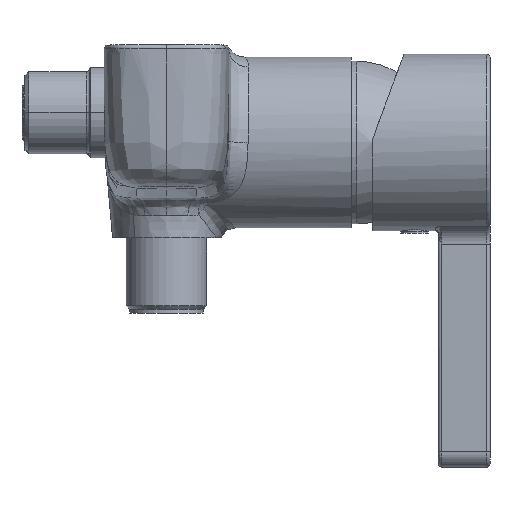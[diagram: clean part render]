
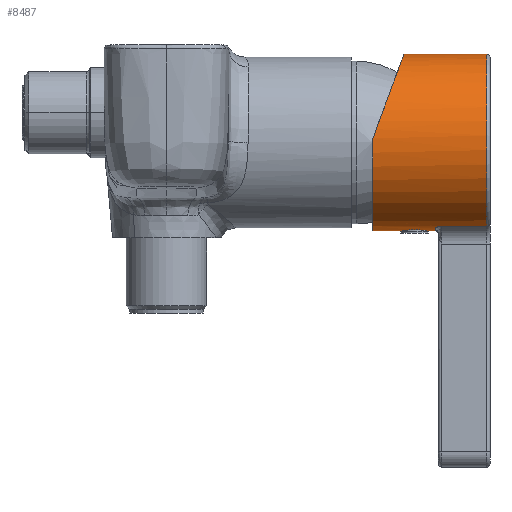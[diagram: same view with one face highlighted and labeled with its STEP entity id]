
A CAD part, top view. The second image highlights one B-rep face of the part: STEP entity #8487.
In plain terms, the highlighted cylindrical face has radius 22.25 mm (diameter 44.5 mm), a partial arc.
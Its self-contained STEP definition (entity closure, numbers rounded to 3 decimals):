
#2480=CARTESIAN_POINT('',(59.818,14.75,0.));
#2481=CARTESIAN_POINT('',(59.818,14.75,1.831));
#2482=CARTESIAN_POINT('',(59.661,14.323,5.055));
#2483=CARTESIAN_POINT('',(59.149,12.931,9.126));
#2484=CARTESIAN_POINT('',(58.427,10.968,12.612));
#2485=CARTESIAN_POINT('',(57.525,8.518,15.601));
#2486=CARTESIAN_POINT('',(56.454,5.606,18.119));
#2487=CARTESIAN_POINT('',(55.208,2.219,20.151));
#2488=CARTESIAN_POINT('',(53.763,-1.709,21.63));
#2489=CARTESIAN_POINT('',(52.632,-4.784,22.15));
#2490=CARTESIAN_POINT('',(52.,-6.5,22.228));
#2511=CARTESIAN_POINT('',(52.,-7.5,0.));
#2512=DIRECTION('',(1.,0.,0.));
#2513=DIRECTION('',(0.,0.045,0.999));
#2514=AXIS2_PLACEMENT_3D('',#2511,#2512,#2513);
#2516=CARTESIAN_POINT('',(59.15,-29.75,0.));
#2536=CARTESIAN_POINT('',(65.85,-29.75,0.));
#2538=DIRECTION('',(1.,0.,0.));
#2539=VECTOR('',#2538,1.85);
#2540=CARTESIAN_POINT('',(65.85,-29.75,0.));
#2541=LINE('',#2540,#2539);
#2562=DIRECTION('',(1.,0.,0.));
#2563=VECTOR('',#2562,7.15);
#2564=CARTESIAN_POINT('',(52.,-29.75,0.));
#2565=LINE('',#2564,#2563);
#2574=CARTESIAN_POINT('',(65.85,-29.75,0.));
#2575=CARTESIAN_POINT('',(65.85,-29.75,0.194));
#2576=CARTESIAN_POINT('',(65.817,-29.745,
0.577));
#2577=CARTESIAN_POINT('',(65.664,-29.723,1.152));
#2578=CARTESIAN_POINT('',(65.414,-29.688,1.687));
#2579=CARTESIAN_POINT('',(65.081,-29.646,2.162));
#2580=CARTESIAN_POINT('',(64.661,-29.601,2.583));
#2581=CARTESIAN_POINT('',(64.171,-29.558,2.923));
#2582=CARTESIAN_POINT('',(63.639,-29.524,3.168));
#2583=CARTESIAN_POINT('',(63.079,-29.502,3.316));
#2584=CARTESIAN_POINT('',(62.501,-29.494,3.367));
#2585=CARTESIAN_POINT('',(61.923,-29.501,3.317));
#2586=CARTESIAN_POINT('',(61.364,-29.523,3.169));
#2587=CARTESIAN_POINT('',(60.83,-29.558,2.924));
#2588=CARTESIAN_POINT('',(60.34,-29.601,2.584));
#2589=CARTESIAN_POINT('',(59.92,-29.646,2.164));
#2590=CARTESIAN_POINT('',(59.588,-29.688,1.689));
#2591=CARTESIAN_POINT('',(59.336,-29.722,1.153));
#2592=CARTESIAN_POINT('',(59.183,-29.745,
0.577));
#2593=CARTESIAN_POINT('',(59.15,-29.75,0.194));
#2594=CARTESIAN_POINT('',(59.15,-29.75,0.));
#2596=DIRECTION('',(1.,0.,0.));
#2597=VECTOR('',#2596,20.882);
#2598=CARTESIAN_POINT('',(59.818,14.75,0.));
#2599=LINE('',#2598,#2597);
#2600=CARTESIAN_POINT('',(69.3,-28.605,7.046));
#2601=CARTESIAN_POINT('',(69.203,-28.605,7.046));
#2602=CARTESIAN_POINT('',(69.015,-28.61,7.03));
#2603=CARTESIAN_POINT('',(68.752,-28.636,6.951));
#2604=CARTESIAN_POINT('',(68.519,-28.681,6.816));
#2605=CARTESIAN_POINT('',(68.316,-28.741,6.626));
#2606=CARTESIAN_POINT('',(68.136,-28.82,6.368));
#2607=CARTESIAN_POINT('',(67.988,-28.915,6.043));
#2608=CARTESIAN_POINT('',(67.874,-29.019,5.662));
#2609=CARTESIAN_POINT('',(67.791,-29.13,5.225));
#2610=CARTESIAN_POINT('',(67.736,-29.243,4.733));
#2611=CARTESIAN_POINT('',(67.707,-29.355,4.187));
#2612=CARTESIAN_POINT('',(67.697,-29.463,3.581));
#2613=CARTESIAN_POINT('',(67.7,-29.53,3.132));
#2614=CARTESIAN_POINT('',(67.7,-29.561,2.896));
#2621=CARTESIAN_POINT('',(80.7,-7.5,0.));
#2622=DIRECTION('',(-1.,0.,0.));
#2623=DIRECTION('',(0.,-0.949,0.317));
#2624=AXIS2_PLACEMENT_3D('',#2621,#2622,#2623);
#2691=CARTESIAN_POINT('',(67.7,-7.5,0.));
#2692=DIRECTION('',(-1.,0.,0.));
#2693=DIRECTION('',(0.,-1.,0.));
#2694=AXIS2_PLACEMENT_3D('',#2691,#2692,#2693);
#2720=DIRECTION('',(1.,0.,0.));
#2721=VECTOR('',#2720,11.4);
#2722=CARTESIAN_POINT('',(69.3,-28.605,7.046));
#2723=LINE('',#2722,#2721);
#3143=CARTESIAN_POINT('',(52.,-29.75,0.));
#3145=VERTEX_POINT('',#3143);
#3149=CARTESIAN_POINT('',(52.,-6.5,22.228));
#3150=VERTEX_POINT('',#3149);
#3155=CARTESIAN_POINT('',(80.7,14.75,0.));
#3156=VERTEX_POINT('',#3155);
#3157=CARTESIAN_POINT('',(59.818,14.75,0.));
#3158=VERTEX_POINT('',#3157);
#3159=CARTESIAN_POINT('',(67.7,-29.75,0.));
#3160=VERTEX_POINT('',#3159);
#3168=CARTESIAN_POINT('',(67.7,-29.561,2.896));
#3169=VERTEX_POINT('',#3168);
#3204=CARTESIAN_POINT('',(80.7,-28.605,7.046));
#3205=VERTEX_POINT('',#3204);
#3212=VERTEX_POINT('',#2600);
#3299=VERTEX_POINT('',#2516);
#3300=VERTEX_POINT('',#2536);
#8466=CARTESIAN_POINT('',(66.75,-7.5,0.));
#8467=DIRECTION('',(1.,0.,0.));
#8468=DIRECTION('',(0.,-1.,0.));
#8469=AXIS2_PLACEMENT_3D('',#8466,#8467,#8468);
#8470=CYLINDRICAL_SURFACE('',#8469,22.25);
#8471=ORIENTED_EDGE('',*,*,#8457,.T.);
#8472=ORIENTED_EDGE('',*,*,#8432,.F.);
#8473=ORIENTED_EDGE('',*,*,#8406,.F.);
#8474=ORIENTED_EDGE('',*,*,#8386,.F.);
#8475=ORIENTED_EDGE('',*,*,#8428,.T.);
#8477=ORIENTED_EDGE('',*,*,#8476,.F.);
#8479=ORIENTED_EDGE('',*,*,#8478,.F.);
#8481=ORIENTED_EDGE('',*,*,#8480,.T.);
#8483=ORIENTED_EDGE('',*,*,#8482,.F.);
#8484=ORIENTED_EDGE('',*,*,#8418,.F.);
#8485=EDGE_LOOP('',(#8471,#8472,#8473,#8474,#8475,#8477,#8479,#8481,#8483,
#8484));
#8486=FACE_OUTER_BOUND('',#8485,.F.);
#8487=ADVANCED_FACE('',(#8486),#8470,.T.);
#2491=B_SPLINE_CURVE_WITH_KNOTS('',3,(#2480,#2481,#2482,#2483,#2484,#2485,#2486,
#2487,#2488,#2489,#2490),.UNSPECIFIED.,.F.,.F.,(4,1,1,1,1,1,1,1,4),(0.,
0.125,0.25,0.375,0.5,0.625,0.75,0.875,1.),.UNSPECIFIED.);
#2515=CIRCLE('',#2514,22.25);
#2595=B_SPLINE_CURVE_WITH_KNOTS('',3,(#2574,#2575,#2576,#2577,#2578,#2579,#2580,
#2581,#2582,#2583,#2584,#2585,#2586,#2587,#2588,#2589,#2590,#2591,#2592,#2593,
#2594),.UNSPECIFIED.,.F.,.F.,(4,1,1,1,1,1,1,1,1,1,1,1,1,1,1,1,1,1,4),(0.,
0.056,0.111,0.167,0.222,
0.278,0.333,0.389,0.444,0.5,
0.556,0.611,0.667,0.722,
0.778,0.833,0.889,0.944,1.),
.UNSPECIFIED.);
#2615=B_SPLINE_CURVE_WITH_KNOTS('',3,(#2600,#2601,#2602,#2603,#2604,#2605,#2606,
#2607,#2608,#2609,#2610,#2611,#2612,#2613,#2614),.UNSPECIFIED.,.F.,.F.,(4,1,1,1,
1,1,1,1,1,1,1,1,4),(0.,0.083,0.167,0.25,
0.333,0.417,0.5,0.583,0.667,
0.75,0.833,0.917,1.),.UNSPECIFIED.);
#2625=CIRCLE('',#2624,22.25);
#2695=CIRCLE('',#2694,22.25);
#8386=EDGE_CURVE('',#3158,#3150,#2491,.T.);
#8406=EDGE_CURVE('',#3150,#3145,#2515,.T.);
#8418=EDGE_CURVE('',#3300,#3160,#2541,.T.);
#8428=EDGE_CURVE('',#3158,#3156,#2599,.T.);
#8432=EDGE_CURVE('',#3145,#3299,#2565,.T.);
#8457=EDGE_CURVE('',#3300,#3299,#2595,.T.);
#8476=EDGE_CURVE('',#3205,#3156,#2625,.T.);
#8478=EDGE_CURVE('',#3212,#3205,#2723,.T.);
#8480=EDGE_CURVE('',#3212,#3169,#2615,.T.);
#8482=EDGE_CURVE('',#3160,#3169,#2695,.T.);
